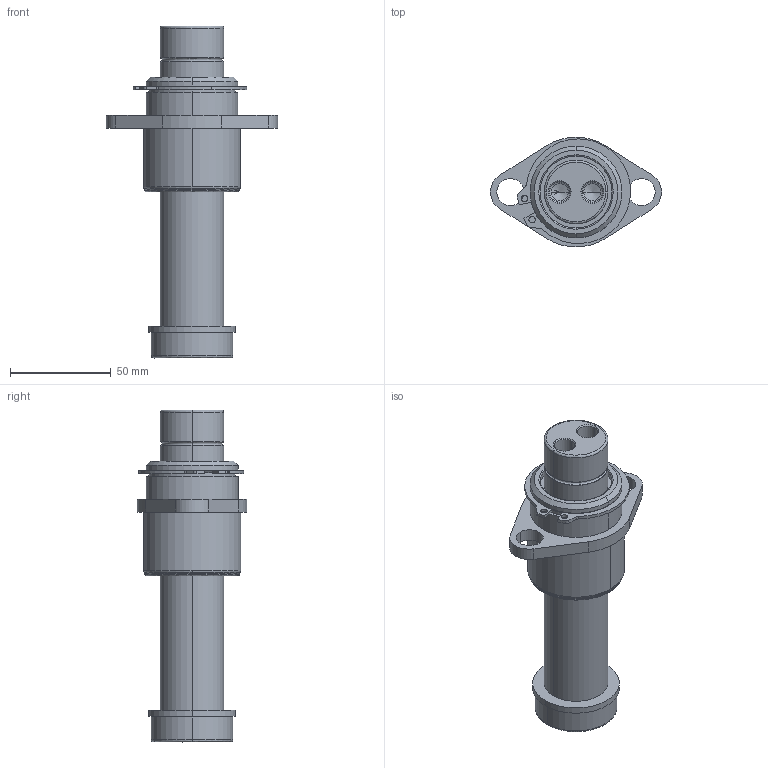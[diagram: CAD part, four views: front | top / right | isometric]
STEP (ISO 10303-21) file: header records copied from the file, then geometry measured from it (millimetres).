
FILE_DESCRIPTION (( 'STEP AP214' ), '1' );
FILE_NAME ('GK122-N2-1-BP-M-XXX.STEP', '2020-09-21T17:48:12', ( '' ), ( '' ), 'SwSTEP 2.0', 'SolidWorks 2017', '' );
FILE_SCHEMA (( 'AUTOMOTIVE_DESIGN' ));
Length unit declared in the file: inch
Products named in the file (7): RetainingRing; GK1.25-N2-1-BP-Base; GK122-N2-1-BP-M-XXX; GK122-M-XXX-GuidePin; GK122-DampeningWasher
Assembly tree (6 placements, depth 3):
  GK122-N2-1-BP-M-XXX
    GK1.25-N2-1-BP-Base
      GK1.25-N2-1-BP-Base
      RetainingRing
    GK122-M-XXX-GuidePin
      GK122-M-XXX-GuidePin
      GK122-DampeningWasher
Bounding box: 85.09 x 54.52 x 165.1 mm (x, y, z)
Volume: 193453.2 mm3; surface area: 44821.5 mm2
Topology: 4 solids, 4 shells, 139 faces, 315 edges, 192 vertices
Faces by surface type: cylinder 63, bspline 30, plane 24, cone 22
Entity records: 5552 total; most frequent: CARTESIAN_POINT 1917, DIRECTION 681, ORIENTED_EDGE 622, EDGE_CURVE 311, AXIS2_PLACEMENT_3D 280, VERTEX_POINT 192, EDGE_LOOP 163, CIRCLE 160
